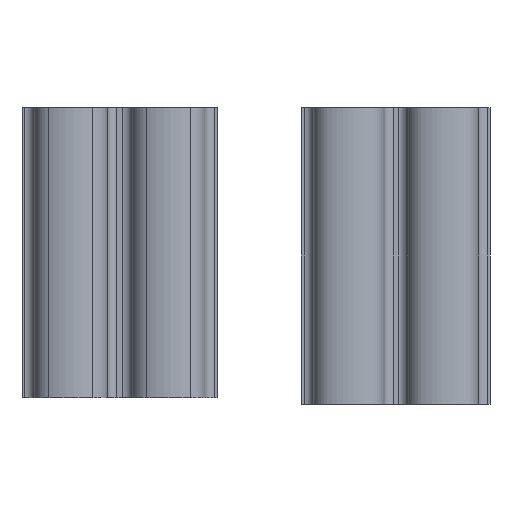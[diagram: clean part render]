
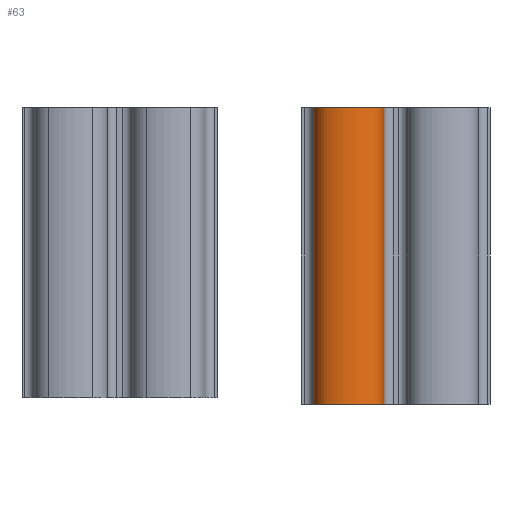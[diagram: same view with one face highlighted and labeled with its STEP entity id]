
A CAD part, front view. The second image highlights one B-rep face of the part: STEP entity #63.
In plain terms, the highlighted free-form (B-spline) face has degree [2, 1] with [13, 2] control points.
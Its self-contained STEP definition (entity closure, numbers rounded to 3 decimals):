
#63=ADVANCED_FACE('',(#131),#1206,.T.);
#131=FACE_OUTER_BOUND('',#199,.T.);
#199=EDGE_LOOP('',(#281,#282,#283,#284));
#281=ORIENTED_EDGE('',*,*,#664,.T.);
#282=ORIENTED_EDGE('',*,*,#665,.T.);
#283=ORIENTED_EDGE('',*,*,#666,.F.);
#284=ORIENTED_EDGE('',*,*,#662,.F.);
#662=EDGE_CURVE('',#1045,#1046,#854,.T.);
#664=EDGE_CURVE('',#1045,#1047,#856,.T.);
#665=EDGE_CURVE('',#1047,#1048,#857,.T.);
#666=EDGE_CURVE('',#1046,#1048,#858,.T.);
#854=(
BOUNDED_CURVE()
B_SPLINE_CURVE(1,(#1584,#1585),.UNSPECIFIED.,.F.,.F.)
B_SPLINE_CURVE_WITH_KNOTS((2,2),(0.,312.),.UNSPECIFIED.)
CURVE()
GEOMETRIC_REPRESENTATION_ITEM()
RATIONAL_B_SPLINE_CURVE((1.,1.))
REPRESENTATION_ITEM('')
);
#856=(
BOUNDED_CURVE()
B_SPLINE_CURVE(2,(#1589,#1590,#1591,#1592,#1593,#1594,#1595,#1596,#1597,
#1598,#1599,#1600,#1601),.UNSPECIFIED.,.F.,.F.)
B_SPLINE_CURVE_WITH_KNOTS((3,2,2,2,2,2,3),(420.615,420.686,
444.517,461.803,479.089,502.92,502.991),
 .UNSPECIFIED.)
CURVE()
GEOMETRIC_REPRESENTATION_ITEM()
RATIONAL_B_SPLINE_CURVE((1.,1.,1.,0.831,1.,0.982,
1.,0.982,1.,0.831,1.,1.,1.))
REPRESENTATION_ITEM('')
);
#857=(
BOUNDED_CURVE()
B_SPLINE_CURVE(1,(#1602,#1603),.UNSPECIFIED.,.F.,.F.)
B_SPLINE_CURVE_WITH_KNOTS((2,2),(0.,312.),.UNSPECIFIED.)
CURVE()
GEOMETRIC_REPRESENTATION_ITEM()
RATIONAL_B_SPLINE_CURVE((1.,1.))
REPRESENTATION_ITEM('')
);
#858=(
BOUNDED_CURVE()
B_SPLINE_CURVE(2,(#1604,#1605,#1606,#1607,#1608,#1609,#1610,#1611,#1612,
#1613,#1614,#1615,#1616),.UNSPECIFIED.,.F.,.F.)
B_SPLINE_CURVE_WITH_KNOTS((3,2,2,2,2,2,3),(420.615,420.686,
444.517,461.803,479.089,502.92,502.991),
 .UNSPECIFIED.)
CURVE()
GEOMETRIC_REPRESENTATION_ITEM()
RATIONAL_B_SPLINE_CURVE((1.,1.,1.,0.831,1.,0.982,
1.,0.982,1.,0.831,1.,1.,1.))
REPRESENTATION_ITEM('')
);
#1045=VERTEX_POINT('',#1519);
#1046=VERTEX_POINT('',#1520);
#1047=VERTEX_POINT('',#1521);
#1048=VERTEX_POINT('',#1522);
#1206=(
BOUNDED_SURFACE()
B_SPLINE_SURFACE(2,1,((#1360,#1361),(#1362,#1363),(#1364,#1365),(#1366,
#1367),(#1368,#1369),(#1370,#1371),(#1372,#1373),(#1374,#1375),(#1376,#1377),
(#1378,#1379),(#1380,#1381),(#1382,#1383),(#1384,#1385)),.UNSPECIFIED.,
 .F.,.F.,.F.)
B_SPLINE_SURFACE_WITH_KNOTS((3,2,2,2,2,2,3),(2,2),(420.615,420.686,
444.517,461.803,479.089,502.92,502.991),
(0.,312.),.UNSPECIFIED.)
GEOMETRIC_REPRESENTATION_ITEM()
RATIONAL_B_SPLINE_SURFACE(((1.,1.),(1.,1.),
(1.,1.),(0.831,0.831),(1.,1.),(0.982,
0.982),(1.,1.),(0.982,0.982),(1.,1.),
(0.831,0.831),(1.,1.),(1.,1.),
(1.,1.)))
REPRESENTATION_ITEM('')
SURFACE()
);
#1360=CARTESIAN_POINT('',(29502.324,-8604.51,305.));
#1361=CARTESIAN_POINT('',(29502.324,-8604.51,-7.));
#1362=CARTESIAN_POINT('',(29502.324,-8604.559,305.));
#1363=CARTESIAN_POINT('',(29502.324,-8604.559,-7.));
#1364=CARTESIAN_POINT('',(29502.324,-8604.608,305.));
#1365=CARTESIAN_POINT('',(29502.324,-8604.608,-7.));
#1366=CARTESIAN_POINT('',(29502.221,-8621.096,305.));
#1367=CARTESIAN_POINT('',(29502.221,-8621.096,-7.));
#1368=CARTESIAN_POINT('',(29487.455,-8627.273,305.));
#1369=CARTESIAN_POINT('',(29487.455,-8627.273,-7.));
#1370=CARTESIAN_POINT('',(29476.744,-8631.754,305.));
#1371=CARTESIAN_POINT('',(29476.744,-8631.754,-7.));
#1372=CARTESIAN_POINT('',(29465.192,-8631.754,305.));
#1373=CARTESIAN_POINT('',(29465.192,-8631.754,-7.));
#1374=CARTESIAN_POINT('',(29453.64,-8631.754,305.));
#1375=CARTESIAN_POINT('',(29453.64,-8631.754,-7.));
#1376=CARTESIAN_POINT('',(29442.929,-8627.273,305.));
#1377=CARTESIAN_POINT('',(29442.929,-8627.273,-7.));
#1378=CARTESIAN_POINT('',(29428.163,-8621.096,305.));
#1379=CARTESIAN_POINT('',(29428.163,-8621.096,-7.));
#1380=CARTESIAN_POINT('',(29428.06,-8604.608,305.));
#1381=CARTESIAN_POINT('',(29428.06,-8604.608,-7.));
#1382=CARTESIAN_POINT('',(29428.06,-8604.559,305.));
#1383=CARTESIAN_POINT('',(29428.06,-8604.559,-7.));
#1384=CARTESIAN_POINT('',(29428.06,-8604.51,305.));
#1385=CARTESIAN_POINT('',(29428.06,-8604.51,-7.));
#1519=CARTESIAN_POINT('',(29502.324,-8604.51,305.));
#1520=CARTESIAN_POINT('',(29502.324,-8604.51,-7.));
#1521=CARTESIAN_POINT('',(29428.06,-8604.51,305.));
#1522=CARTESIAN_POINT('',(29428.06,-8604.51,-7.));
#1584=CARTESIAN_POINT('',(29502.324,-8604.51,305.));
#1585=CARTESIAN_POINT('',(29502.324,-8604.51,-7.));
#1589=CARTESIAN_POINT('',(29502.324,-8604.51,305.));
#1590=CARTESIAN_POINT('',(29502.324,-8604.559,305.));
#1591=CARTESIAN_POINT('',(29502.324,-8604.608,305.));
#1592=CARTESIAN_POINT('',(29502.221,-8621.096,305.));
#1593=CARTESIAN_POINT('',(29487.455,-8627.273,305.));
#1594=CARTESIAN_POINT('',(29476.744,-8631.754,305.));
#1595=CARTESIAN_POINT('',(29465.192,-8631.754,305.));
#1596=CARTESIAN_POINT('',(29453.64,-8631.754,305.));
#1597=CARTESIAN_POINT('',(29442.929,-8627.273,305.));
#1598=CARTESIAN_POINT('',(29428.163,-8621.096,305.));
#1599=CARTESIAN_POINT('',(29428.06,-8604.608,305.));
#1600=CARTESIAN_POINT('',(29428.06,-8604.559,305.));
#1601=CARTESIAN_POINT('',(29428.06,-8604.51,305.));
#1602=CARTESIAN_POINT('',(29428.06,-8604.51,305.));
#1603=CARTESIAN_POINT('',(29428.06,-8604.51,-7.));
#1604=CARTESIAN_POINT('',(29502.324,-8604.51,-7.));
#1605=CARTESIAN_POINT('',(29502.324,-8604.559,-7.));
#1606=CARTESIAN_POINT('',(29502.324,-8604.608,-7.));
#1607=CARTESIAN_POINT('',(29502.221,-8621.096,-7.));
#1608=CARTESIAN_POINT('',(29487.455,-8627.273,-7.));
#1609=CARTESIAN_POINT('',(29476.744,-8631.754,-7.));
#1610=CARTESIAN_POINT('',(29465.192,-8631.754,-7.));
#1611=CARTESIAN_POINT('',(29453.64,-8631.754,-7.));
#1612=CARTESIAN_POINT('',(29442.929,-8627.273,-7.));
#1613=CARTESIAN_POINT('',(29428.163,-8621.096,-7.));
#1614=CARTESIAN_POINT('',(29428.06,-8604.608,-7.));
#1615=CARTESIAN_POINT('',(29428.06,-8604.559,-7.));
#1616=CARTESIAN_POINT('',(29428.06,-8604.51,-7.));
